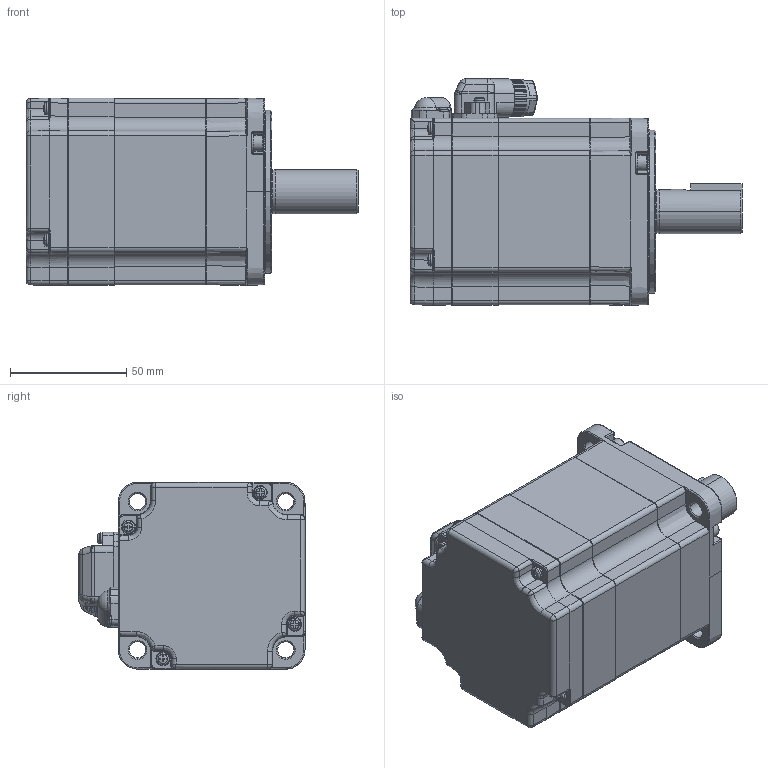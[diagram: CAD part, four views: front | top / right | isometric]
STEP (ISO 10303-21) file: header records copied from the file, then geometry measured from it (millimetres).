
FILE_DESCRIPTION( (''), '2;1');
FILE_NAME ('SGMXJ-08AUA6SC2.stp','2022-03-02T11:29:49',(''),(''),'spGate 15.6.6','','');
FILE_SCHEMA (('AUTOMOTIVE_DESIGN'));
Length unit declared in the file: millimetre
Products named in the file (9): Assembly; SGMXJ-08AUA6SC2-prt0; SGMXJ-08AUA6SC2-prt1; SGMXJ-08AUA6SC2-prt2; SGMXJ-08AUA6SC2-prt3; SGMXJ-08AUA6SC2-prt4; SGMXJ-08AUA6SC2-prt5; SGMXJ-08AUA6SC2-prt6; SGMXJ-08AUA6SC2-prt7
Assembly tree (8 placements, depth 2):
  Assembly
    SGMXJ-08AUA6SC2-prt0
    SGMXJ-08AUA6SC2-prt1
    SGMXJ-08AUA6SC2-prt2
    SGMXJ-08AUA6SC2-prt3
    SGMXJ-08AUA6SC2-prt4
    SGMXJ-08AUA6SC2-prt5
    SGMXJ-08AUA6SC2-prt6
    SGMXJ-08AUA6SC2-prt7
Bounding box: 142.5 x 97.15 x 80.54 mm (x, y, z)
Volume: 613690 mm3; surface area: 53433 mm2
Topology: 3 solids, 8 shells, 955 faces, 2476 edges, 1541 vertices
Faces by surface type: plane 335, bspline 303, cylinder 293, sphere 24
Entity records: 57147 total; most frequent: CARTESIAN_POINT 16338, ORIENTED_EDGE 4746, DIRECTION 4019, COLOUR_RGB 3419, PRESENTATION_STYLE_ASSIGNMENT 3419, STYLED_ITEM 3419, EDGE_CURVE 2456, DRAUGHTING_PRE_DEFINED_CURVE_FONT 2456
